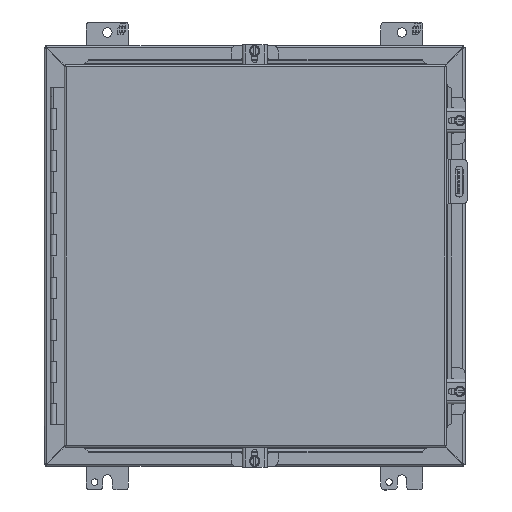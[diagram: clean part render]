
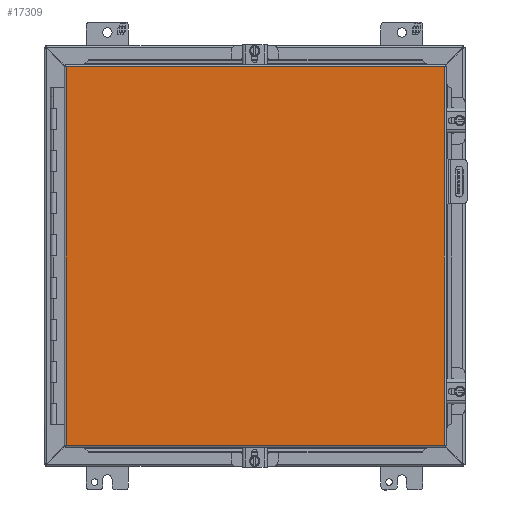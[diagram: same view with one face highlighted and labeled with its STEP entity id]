
A CAD part, front view. The second image highlights one B-rep face of the part: STEP entity #17309.
In plain terms, the highlighted planar face has unit normal (0, -1, 0).
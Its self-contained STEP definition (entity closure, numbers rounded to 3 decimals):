
#2198=ORIENTED_EDGE('',*,*,#7038,.T.);
#2199=ORIENTED_EDGE('',*,*,#7039,.T.);
#2200=ORIENTED_EDGE('',*,*,#7040,.T.);
#2201=ORIENTED_EDGE('',*,*,#7041,.T.);
#7038=EDGE_CURVE('',#9514,#9515,#11169,.T.);
#7039=EDGE_CURVE('',#9515,#9516,#11170,.T.);
#7040=EDGE_CURVE('',#9516,#9517,#11171,.T.);
#7041=EDGE_CURVE('',#9517,#9514,#11172,.T.);
#9514=VERTEX_POINT('',#24679);
#9515=VERTEX_POINT('',#24680);
#9516=VERTEX_POINT('',#24682);
#9517=VERTEX_POINT('',#24684);
#11169=LINE('',#24678,#12884);
#11170=LINE('',#24681,#12885);
#11171=LINE('',#24683,#12886);
#11172=LINE('',#24685,#12887);
#12884=VECTOR('',#20289,1000.);
#12885=VECTOR('',#20290,1000.);
#12886=VECTOR('',#20291,1000.);
#12887=VECTOR('',#20292,1000.);
#14529=EDGE_LOOP('',(#2198,#2199,#2200,#2201));
#15636=FACE_BOUND('',#14529,.T.);
#16669=PLANE('',#18516);
#17309=ADVANCED_FACE('',(#15636),#16669,.T.);
#18516=AXIS2_PLACEMENT_3D('',#24677,#20287,#20288);
#20287=DIRECTION('',(0.,-1.,0.));
#20288=DIRECTION('',(0.,0.,-1.));
#20289=DIRECTION('',(0.,0.,-1.));
#20290=DIRECTION('',(1.,0.,0.));
#20291=DIRECTION('',(0.,0.,1.));
#20292=DIRECTION('',(-1.,0.,0.));
#24677=CARTESIAN_POINT('',(-228.244,0.,-228.46));
#24678=CARTESIAN_POINT('',(-228.244,0.,228.46));
#24679=CARTESIAN_POINT('',(-228.244,0.,228.46));
#24680=CARTESIAN_POINT('',(-228.244,0.,-228.46));
#24681=CARTESIAN_POINT('',(-228.244,0.,-228.46));
#24682=CARTESIAN_POINT('',(228.244,0.,-228.46));
#24683=CARTESIAN_POINT('',(228.244,0.,-228.46));
#24684=CARTESIAN_POINT('',(228.244,0.,228.46));
#24685=CARTESIAN_POINT('',(228.244,0.,228.46));
